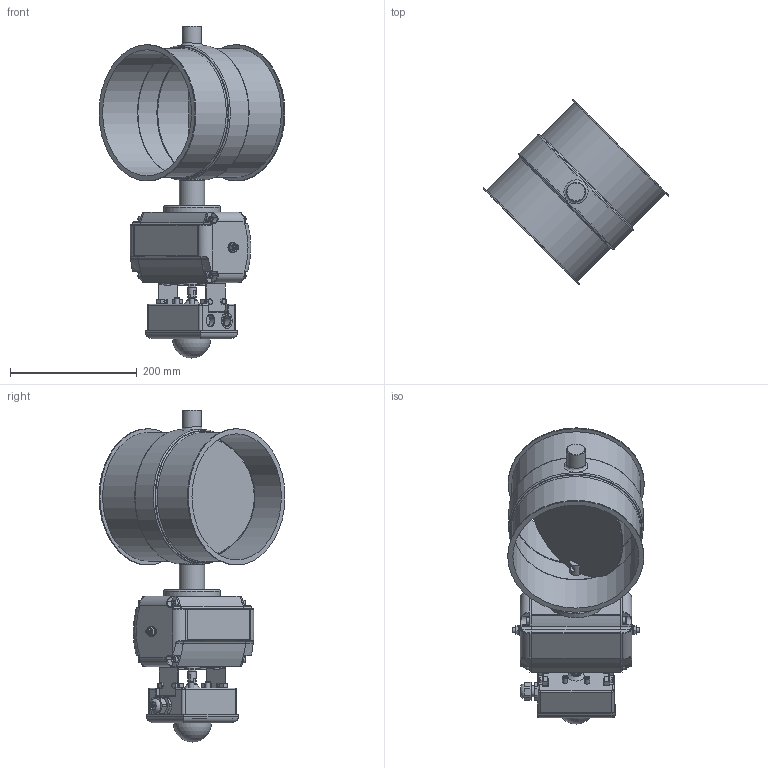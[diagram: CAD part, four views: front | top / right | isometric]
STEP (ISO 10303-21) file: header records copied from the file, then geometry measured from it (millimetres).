
FILE_DESCRIPTION((''),'2;1');
FILE_NAME('U:\Wolfgang\Marcel-3D\fertig\Kapitel 8\2021212.stp','2012-01-13T11:08:35',('iwienholt'),(''),'Autodesk Inventor 2010','Autodesk Inventor 2010','');
FILE_SCHEMA(('AUTOMOTIVE_DESIGN { 1 0 10303 214 1 1 1 1 }'));
Length unit declared in the file: millimetre
Products named in the file (21): 2021212; Bolzen D20; Scheibe200b; 2021210-1; Antrieb Flowserve D20; Pneumatischer SchwenkantriebS85D-2; Body; roter Verschluss; A1 Schwenkantrieb S85D; Body S085D; DIN EN ISO 4018 M5x10; DIN 125-1 A A 13; End Cap L85; End Cap R85; DIN 125-1 A A 8,4; DIN 916 M8  x  40; DIN 555 - ersetzt durch DIN EN 24034 M8; DIN EN ISO 4762 M6 x 12; Halterung; Deckel2; BuchseD20 90-50
Assembly tree (40 placements, depth 5):
  2021212
    Bolzen D20  x2
    Scheibe200b
    2021210-1
    Antrieb Flowserve D20
      Pneumatischer SchwenkantriebS85D-2
        Body
        roter Verschluss
        A1 Schwenkantrieb S85D
          Body S085D
          DIN EN ISO 4018 M5x10  x4
          DIN 125-1 A A 13  x2
          End Cap L85
          End Cap R85
          DIN 125-1 A A 8,4  x2
          DIN 916 M8  x  40  x2
          DIN 555 - ersetzt durch DIN EN 24034 M8  x2
          DIN EN ISO 4762 M6 x 12  x8
        Halterung  x2
        DIN EN ISO 4018 M5x10  x4
        Deckel2
      BuchseD20 90-50
Bounding box: 293.42 x 293.48 x 524 mm (x, y, z)
Volume: 2822154.8 mm3; surface area: 686993.6 mm2
Topology: 39 solids, 39 shells, 904 faces, 2097 edges, 1328 vertices
Faces by surface type: plane 450, cylinder 203, bspline 104, cone 104, torus 42, sphere 1
Full cylindrical faces by diameter (mm): 3.242 x4, 5 x10, 6 x12, 6.647 x4, 8 x6, 8.376 x1, 8.4 x2, 10 x10, 11.9 x2, 12.5 x1, 13 x5, 14 x1, 16 x2, 17 x1, 17.79 x2, 18 x3, 20 x6, 20.5 x1, 22 x1, 24 x3, 28.5 x1, 30 x3, 40 x3, 90 x1, 199 x3, 200 x1, 203 x2, 208 x1, 209 x1, 213 x1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
Entity records: 19873 total; most frequent: CARTESIAN_POINT 5843, DIRECTION 2794, ORIENTED_EDGE 2484, EDGE_CURVE 1242, AXIS2_PLACEMENT_3D 1089, VERTEX_POINT 872, EDGE_LOOP 872, VECTOR 616
